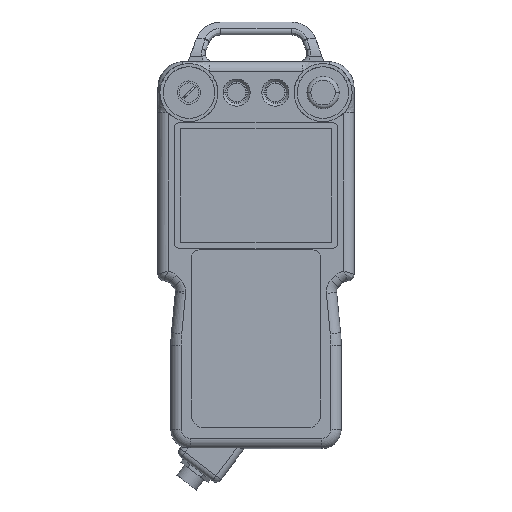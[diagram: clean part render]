
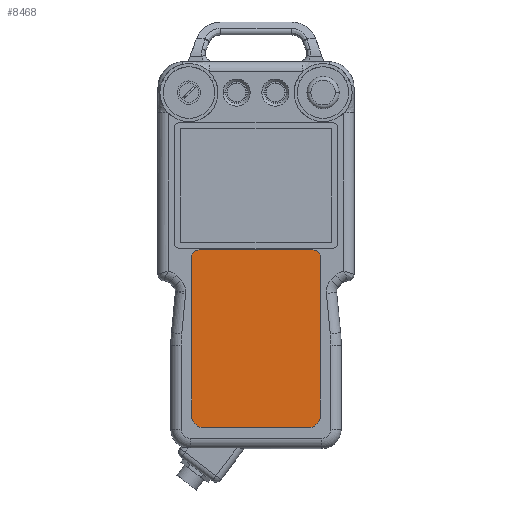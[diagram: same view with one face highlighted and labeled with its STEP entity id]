
A CAD part, top view. The second image highlights one B-rep face of the part: STEP entity #8468.
In plain terms, the highlighted planar face has unit normal (0, 0, 1).
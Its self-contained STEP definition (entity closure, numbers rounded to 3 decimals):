
#185 = DIRECTION ( 'NONE',  ( -1., 0., 0. ) ) ;
#322 = VERTEX_POINT ( 'NONE', #853 ) ;
#820 = CARTESIAN_POINT ( 'NONE',  ( 44., -67., 38. ) ) ;
#853 = CARTESIAN_POINT ( 'NONE',  ( 44., -61., 38. ) ) ;
#1088 = AXIS2_PLACEMENT_3D ( 'NONE', #1920, #8765, #2921 ) ;
#1456 = AXIS2_PLACEMENT_3D ( 'NONE', #10200, #4292, #11178 ) ;
#1565 = VERTEX_POINT ( 'NONE', #6796 ) ;
#1645 = EDGE_CURVE ( 'NONE', #10961, #10430, #12738, .T. ) ;
#1814 = DIRECTION ( 'NONE',  ( 1., 0., 0. ) ) ;
#1920 = CARTESIAN_POINT ( 'NONE',  ( 0., 0., 38. ) ) ;
#2046 = FACE_OUTER_BOUND ( 'NONE', #4998, .T. ) ;
#2208 = LINE ( 'NONE', #8512, #4804 ) ;
#2856 = CARTESIAN_POINT ( 'NONE',  ( -50., -67., 38. ) ) ;
#2910 = VECTOR ( 'NONE', #4957, 1000. ) ;
#2921 = DIRECTION ( 'NONE',  ( 1., 0., 0. ) ) ;
#3046 = CARTESIAN_POINT ( 'NONE',  ( -44., -67., 38. ) ) ;
#3048 = EDGE_CURVE ( 'NONE', #12359, #322, #4573, .T. ) ;
#3636 = DIRECTION ( 'NONE',  ( 0., 1., 0. ) ) ;
#3867 = CARTESIAN_POINT ( 'NONE',  ( -50., -189., 38. ) ) ;
#4021 = DIRECTION ( 'NONE',  ( 1., 0., 0. ) ) ;
#4137 = AXIS2_PLACEMENT_3D ( 'NONE', #10075, #4177, #11061 ) ;
#4177 = DIRECTION ( 'NONE',  ( 0., 0., 1. ) ) ;
#4292 = DIRECTION ( 'NONE',  ( 0., 0., 1. ) ) ;
#4308 = VECTOR ( 'NONE', #9151, 1000. ) ;
#4573 = CIRCLE ( 'NONE', #7657, 6. ) ;
#4804 = VECTOR ( 'NONE', #3636, 1000. ) ;
#4957 = DIRECTION ( 'NONE',  ( 0., -1., 0. ) ) ;
#4998 = EDGE_LOOP ( 'NONE', ( #7920, #8044, #6788, #5170, #11745, #9748, #10279, #5713 ) ) ;
#5027 = VECTOR ( 'NONE', #185, 1000. ) ;
#5123 = CARTESIAN_POINT ( 'NONE',  ( 40., -199., 38. ) ) ;
#5170 = ORIENTED_EDGE ( 'NONE', *, *, #9123, .T. ) ;
#5210 = EDGE_CURVE ( 'NONE', #10430, #1565, #6406, .T. ) ;
#5546 = VERTEX_POINT ( 'NONE', #5123 ) ;
#5713 = ORIENTED_EDGE ( 'NONE', *, *, #9998, .T. ) ;
#6406 = CIRCLE ( 'NONE', #4137, 10. ) ;
#6550 = CARTESIAN_POINT ( 'NONE',  ( 50., -189., 38. ) ) ;
#6611 = VERTEX_POINT ( 'NONE', #9595 ) ;
#6788 = ORIENTED_EDGE ( 'NONE', *, *, #12463, .T. ) ;
#6796 = CARTESIAN_POINT ( 'NONE',  ( -40., -199., 38. ) ) ;
#7060 = CARTESIAN_POINT ( 'NONE',  ( -50., -61., 38. ) ) ;
#7177 = AXIS2_PLACEMENT_3D ( 'NONE', #3046, #9907, #4021 ) ;
#7578 = VERTEX_POINT ( 'NONE', #6550 ) ;
#7657 = AXIS2_PLACEMENT_3D ( 'NONE', #820, #7695, #1814 ) ;
#7695 = DIRECTION ( 'NONE',  ( 0., 0., 1. ) ) ;
#7836 = CARTESIAN_POINT ( 'NONE',  ( 50., -67., 38. ) ) ;
#7920 = ORIENTED_EDGE ( 'NONE', *, *, #8143, .T. ) ;
#8044 = ORIENTED_EDGE ( 'NONE', *, *, #3048, .T. ) ;
#8143 = EDGE_CURVE ( 'NONE', #7578, #12359, #2208, .T. ) ;
#8165 = CARTESIAN_POINT ( 'NONE',  ( -50., -199., 38. ) ) ;
#8468 = ADVANCED_FACE ( 'NONE', ( #2046 ), #12704, .T. ) ;
#8512 = CARTESIAN_POINT ( 'NONE',  ( 50., -61., 38. ) ) ;
#8765 = DIRECTION ( 'NONE',  ( 0., 0., 1. ) ) ;
#8921 = CIRCLE ( 'NONE', #7177, 6. ) ;
#9123 = EDGE_CURVE ( 'NONE', #6611, #10961, #8921, .T. ) ;
#9151 = DIRECTION ( 'NONE',  ( 1., 0., 0. ) ) ;
#9595 = CARTESIAN_POINT ( 'NONE',  ( -44., -61., 38. ) ) ;
#9748 = ORIENTED_EDGE ( 'NONE', *, *, #5210, .T. ) ;
#9907 = DIRECTION ( 'NONE',  ( 0., 0., 1. ) ) ;
#9980 = EDGE_CURVE ( 'NONE', #1565, #5546, #12154, .T. ) ;
#9998 = EDGE_CURVE ( 'NONE', #5546, #7578, #11839, .T. ) ;
#10075 = CARTESIAN_POINT ( 'NONE',  ( -40., -189., 38. ) ) ;
#10200 = CARTESIAN_POINT ( 'NONE',  ( 40., -189., 38. ) ) ;
#10279 = ORIENTED_EDGE ( 'NONE', *, *, #9980, .T. ) ;
#10430 = VERTEX_POINT ( 'NONE', #3867 ) ;
#10961 = VERTEX_POINT ( 'NONE', #2856 ) ;
#11061 = DIRECTION ( 'NONE',  ( 1., 0., 0. ) ) ;
#11178 = DIRECTION ( 'NONE',  ( 1., 0., 0. ) ) ;
#11186 = LINE ( 'NONE', #7060, #5027 ) ;
#11745 = ORIENTED_EDGE ( 'NONE', *, *, #1645, .T. ) ;
#11827 = CARTESIAN_POINT ( 'NONE',  ( -50., -61., 38. ) ) ;
#11839 = CIRCLE ( 'NONE', #1456, 10. ) ;
#12154 = LINE ( 'NONE', #8165, #4308 ) ;
#12359 = VERTEX_POINT ( 'NONE', #7836 ) ;
#12463 = EDGE_CURVE ( 'NONE', #322, #6611, #11186, .T. ) ;
#12704 = PLANE ( 'NONE',  #1088 ) ;
#12738 = LINE ( 'NONE', #11827, #2910 ) ;
